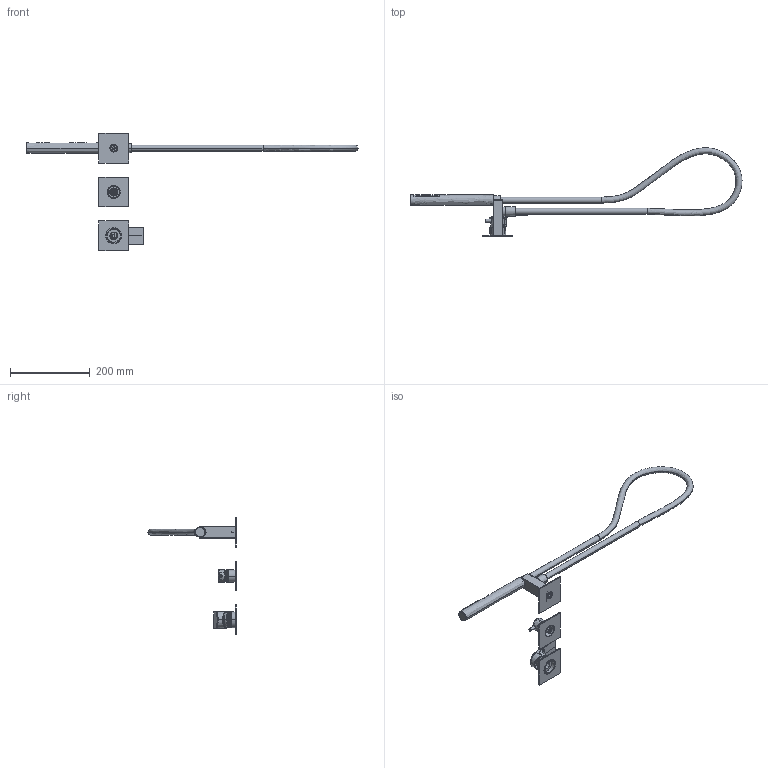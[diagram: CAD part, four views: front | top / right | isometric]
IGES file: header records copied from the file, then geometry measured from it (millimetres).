
Start section:  PTC IGES file: 3d_sw0002.igs
Global section: file name: 3d_sw0002.igs; native system: Creo Parametric by PTC Inc.; preprocessor: 2022014; author: volponeff; organization: Unknown; date: 20240930.111805; units: millimetre
Bounding box: 832.22 x 221.17 x 295 mm (x, y, z)
Surface area: 209093.3 mm2 (no closed solid volume)
Topology: 0 solids, 0 shells, 1532 faces, 7994 edges, 7968 vertices
Faces by surface type: revolution 1000, bspline 530, extrusion 2
